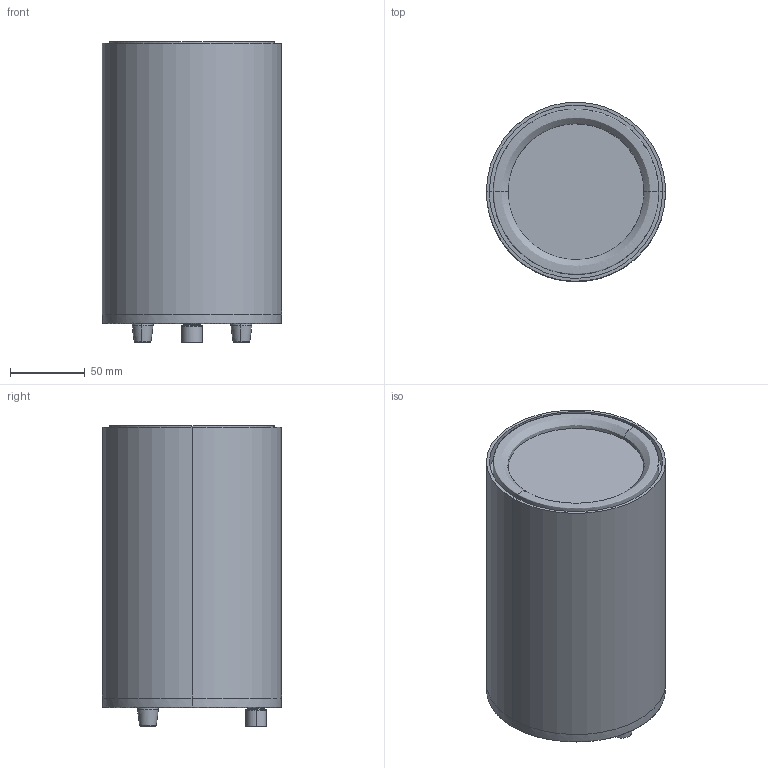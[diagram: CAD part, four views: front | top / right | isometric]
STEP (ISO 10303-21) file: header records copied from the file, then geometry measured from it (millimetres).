
FILE_DESCRIPTION(/* description */ (''),/* implementation_level */ '2;1');
FILE_NAME(/* name */ '220506_ROXX_B.Flex_STEP',/* time_stamp */ '2022-05-09T14:57:17+02:00',/* author */ (''),/* organization */ (''),/* preprocessor_version */ 'ST-DEVELOPER v16.5',/* originating_system */ 'Rhino 7.17',/* authorisation */ '');
FILE_SCHEMA (('CONFIG_CONTROL_DESIGN'));
Length unit declared in the file: millimetre
Products named in the file (1): Document
Bounding box: 120 x 119.95 x 201.5 mm (x, y, z)
Volume: 2086943.6 mm3; surface area: 105468.7 mm2
Topology: 1 solids, 1 shells, 85 faces, 184 edges, 110 vertices
Faces by surface type: cylinder 35, bspline 26, plane 24
Entity records: 3821 total; most frequent: CARTESIAN_POINT 2574, ORIENTED_EDGE 368, EDGE_CURVE 184, VERTEX_POINT 110, EDGE_LOOP 94, ADVANCED_FACE 85, FACE_OUTER_BOUND 85, DIRECTION 63
